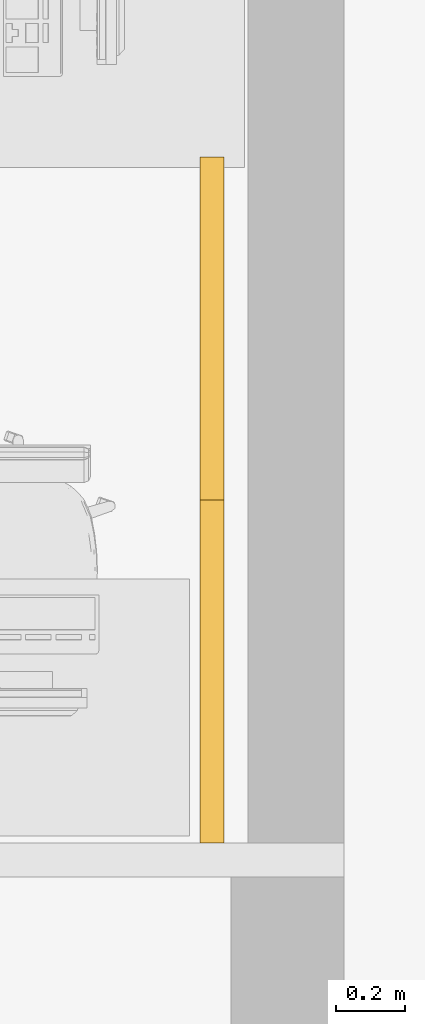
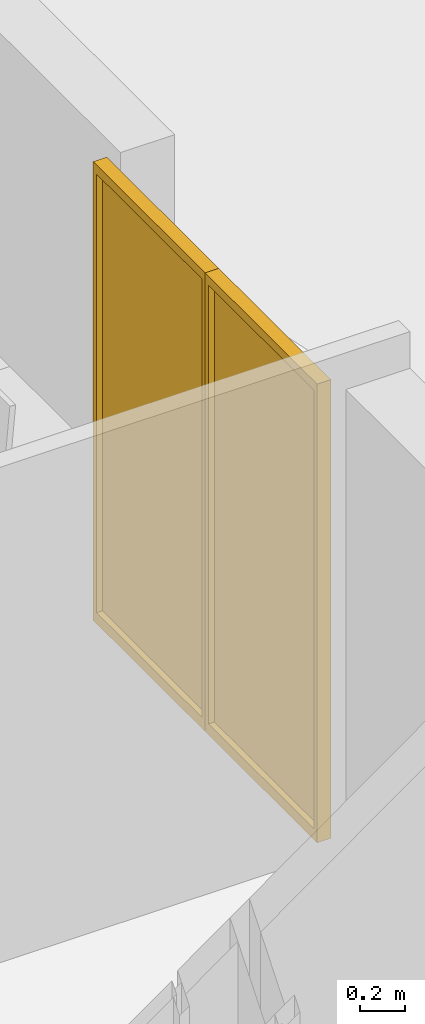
# One storey, part 29 of 51: 2 windows.
"""IFC2X3 building model written with IfcOpenShell, lengths in metres."""

from ifc_helpers import new_model, entity, si_unit, converted_unit, derived_unit, direction, frame, frame_2d, origin, place, context, subcontext, project, spatial, polyline, rectangle, outline, extrude, source, transform, mapped, material, material_list, type_object, type_shapes, element, save


model = new_model("IFC2X3")

# Units and contexts
model_context = context("Model", 3, precision=1e-05, world=origin(), true_north=direction((6.123031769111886e-17, 1.0)))
body_context = subcontext(model_context, "Body", "Model", "MODEL_VIEW")
ifc_project = project(units=[si_unit("LENGTHUNIT", "METRE"), si_unit("AREAUNIT", "SQUARE_METRE"), si_unit("VOLUMEUNIT", "CUBIC_METRE"), converted_unit("PLANEANGLEUNIT", "DEGREE", entity("IfcRatioMeasure", 0.017453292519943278), si_unit("PLANEANGLEUNIT", "RADIAN"), dimensions=[0, 0, 0, 0, 0, 0, 0]), si_unit("MASSUNIT", "GRAM", prefix="KILO"), derived_unit("MASSDENSITYUNIT", [(si_unit("MASSUNIT", "GRAM", prefix="KILO"), 1), (si_unit("LENGTHUNIT", "METRE"), -3)]), derived_unit("MOMENTOFINERTIAUNIT", [(si_unit("LENGTHUNIT", "METRE"), 4)]), si_unit("TIMEUNIT", "SECOND"), si_unit("FREQUENCYUNIT", "HERTZ"), si_unit("THERMODYNAMICTEMPERATUREUNIT", "DEGREE_CELSIUS"), derived_unit("THERMALTRANSMITTANCEUNIT", [(si_unit("MASSUNIT", "GRAM", prefix="KILO"), 1), (si_unit("THERMODYNAMICTEMPERATUREUNIT", "KELVIN"), -1), (si_unit("TIMEUNIT", "SECOND"), -3)]), derived_unit("THERMALCONDUCTANCEUNIT", [(si_unit("MASSUNIT", "GRAM", prefix="KILO"), 1), (si_unit("LENGTHUNIT", "METRE"), 1), (si_unit("THERMODYNAMICTEMPERATUREUNIT", "KELVIN"), -1), (si_unit("TIMEUNIT", "SECOND"), -3)]), derived_unit("VOLUMETRICFLOWRATEUNIT", [(si_unit("LENGTHUNIT", "METRE"), 3), (si_unit("TIMEUNIT", "SECOND"), -1)]), derived_unit("MASSFLOWRATEUNIT", [(si_unit("MASSUNIT", "GRAM", prefix="KILO"), 1), (si_unit("TIMEUNIT", "SECOND"), -1)]), derived_unit("ROTATIONALFREQUENCYUNIT", [(si_unit("TIMEUNIT", "SECOND"), -1)]), si_unit("ELECTRICCURRENTUNIT", "AMPERE"), si_unit("ELECTRICVOLTAGEUNIT", "VOLT"), si_unit("POWERUNIT", "WATT"), si_unit("FORCEUNIT", "NEWTON", prefix="KILO"), si_unit("ILLUMINANCEUNIT", "LUX"), si_unit("LUMINOUSFLUXUNIT", "LUMEN"), si_unit("LUMINOUSINTENSITYUNIT", "CANDELA"), derived_unit("USERDEFINED", [(si_unit("MASSUNIT", "GRAM", prefix="KILO"), -1), (si_unit("LENGTHUNIT", "METRE"), -2), (si_unit("TIMEUNIT", "SECOND"), 3), (si_unit("LUMINOUSFLUXUNIT", "LUMEN"), 1)]), derived_unit("USERDEFINED", [(si_unit("MASSUNIT", "GRAM", prefix="KILO"), 1), (si_unit("LENGTHUNIT", "METRE"), 3), (si_unit("TIMEUNIT", "SECOND"), -3), (si_unit("ELECTRICCURRENTUNIT", "AMPERE"), -2)]), derived_unit("USERDEFINED", [(si_unit("LENGTHUNIT", "METRE"), 2), (si_unit("TIMEUNIT", "SECOND"), -2)]), derived_unit("SOUNDPOWERUNIT", [(si_unit("MASSUNIT", "GRAM", prefix="KILO"), 1), (si_unit("LENGTHUNIT", "METRE"), 2), (si_unit("TIMEUNIT", "SECOND"), -3)]), derived_unit("SOUNDPRESSUREUNIT", [(si_unit("MASSUNIT", "GRAM", prefix="KILO"), 1), (si_unit("LENGTHUNIT", "METRE"), -1), (si_unit("TIMEUNIT", "SECOND"), -2)]), derived_unit("LINEARVELOCITYUNIT", [(si_unit("LENGTHUNIT", "METRE"), 1), (si_unit("TIMEUNIT", "SECOND"), -1)]), si_unit("PRESSUREUNIT", "PASCAL"), derived_unit("USERDEFINED", [(si_unit("LENGTHUNIT", "METRE"), -2), (si_unit("MASSUNIT", "GRAM", prefix="KILO"), 1), (si_unit("TIMEUNIT", "SECOND"), -2)]), derived_unit("LINEARFORCEUNIT", [(si_unit("MASSUNIT", "GRAM", prefix="KILO"), 1), (si_unit("LENGTHUNIT", "METRE"), 1), (si_unit("TIMEUNIT", "SECOND"), -2), (si_unit("LENGTHUNIT", "METRE"), -1)]), derived_unit("PLANARFORCEUNIT", [(si_unit("MASSUNIT", "GRAM", prefix="KILO"), 1), (si_unit("LENGTHUNIT", "METRE"), 1), (si_unit("TIMEUNIT", "SECOND"), -2), (si_unit("LENGTHUNIT", "METRE"), -2)]), derived_unit("SPECIFICHEATCAPACITYUNIT", [(si_unit("LENGTHUNIT", "METRE"), 2), (si_unit("TIMEUNIT", "SECOND"), -2), (si_unit("THERMODYNAMICTEMPERATUREUNIT", "KELVIN"), -1)]), derived_unit("VAPORPERMEABILITYUNIT", [(si_unit("TIMEUNIT", "SECOND"), 1), (si_unit("LENGTHUNIT", "METRE"), -1)]), derived_unit("DYNAMICVISCOSITYUNIT", [(si_unit("MASSUNIT", "GRAM", prefix="KILO"), 1), (si_unit("LENGTHUNIT", "METRE"), -1), (si_unit("TIMEUNIT", "SECOND"), -1)]), derived_unit("THERMALEXPANSIONCOEFFICIENTUNIT", [(si_unit("THERMODYNAMICTEMPERATUREUNIT", "KELVIN"), -1)])], contexts=[model_context])

# Site, building, storey
site_placement = place(None, origin())
site = spatial("IfcSite", under=ifc_project, at=site_placement, Name="Default", CompositionType="ELEMENT")
building_placement = place(site_placement, origin())
building = spatial("IfcBuilding", under=site, at=building_placement, CompositionType="ELEMENT")
storey_placement = place(building_placement, frame((0.0, 0.0, 3.06)))
storey = spatial("IfcBuildingStorey", under=building, at=storey_placement, Name="ÉTAGE", CompositionType="ELEMENT", Elevation=3.06)

# Windows
ifc_material_1 = material(Name="Transp. - Verre clair (rapide)")
ifc_material_2 = material(Name="Peinture - Anthracite")
ifc_material_list = material_list([ifc_material_1, ifc_material_2])
window_style = type_object("IfcWindowStyle", Name="Fen-003", ConstructionType="NOTDEFINED", OperationType="NOTDEFINED", ParameterTakesPrecedence=False, Sizeable=False, material=ifc_material_list)
shared_shape = source(origin(), body_context, "Body", "SweptSolid", [
    extrude(rectangle(XDim=0.94, YDim=0.009999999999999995, at=frame_2d((0.0, -1.691355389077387e-17), x_axis=(1.0, 0.0))), frame((0.49999999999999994, -0.5277999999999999, 0.06009999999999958)), (0.0, 0.0, 1.0), 2.3899000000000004),
    extrude(outline(polyline([(-1.2499999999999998, -0.49999999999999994), (1.2499999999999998, -0.49999999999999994), (1.2499999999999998, 0.49999999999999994), (-1.2499999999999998, 0.49999999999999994), (-1.2499999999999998, -0.49999999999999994)]), holes=[polyline([(1.1899999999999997, 0.47), (1.19, -0.47), (-1.2000000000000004, -0.47), (-1.2000000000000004, 0.46999999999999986), (1.1899999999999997, 0.47)])]), frame((0.49999999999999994, -0.5628, 1.2499999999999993), z_axis=(0.0, 1.0, 0.0), x_axis=(0.0, 0.0, -1.0)), (0.0, 0.0, 1.0), 0.07000000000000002),
])
type_shapes(window_style, [shared_shape])
for number, where, z_axis, x_axis in (
    (1, (152.44355228, 21.0272094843, 1.2099999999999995), (0.0, 0.0, 1.0), (0.0, -1.0, 0.0)),
    (2, (152.44355228, 22.0272094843, 1.2099999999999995), (0.0, 0.0, 1.0), (0.0, -1.0, 0.0)),
):
    element("IfcWindow", number, at=place(storey_placement, frame(where, z_axis=z_axis, x_axis=x_axis)), inside=storey, type_object=window_style, material=ifc_material_list, Name="Fen-003 287570:Fen-003 287570", ObjectType="Fen-003 287570:Fen-003 287570", OverallHeight=2.5, OverallWidth=1.0, context=body_context, shape_type="MappedRepresentation", body=[
        mapped(shared_shape, transform((0.0, 0.0, 0.0), scale=1.0)),
    ])

save(model, "model.ifc")
